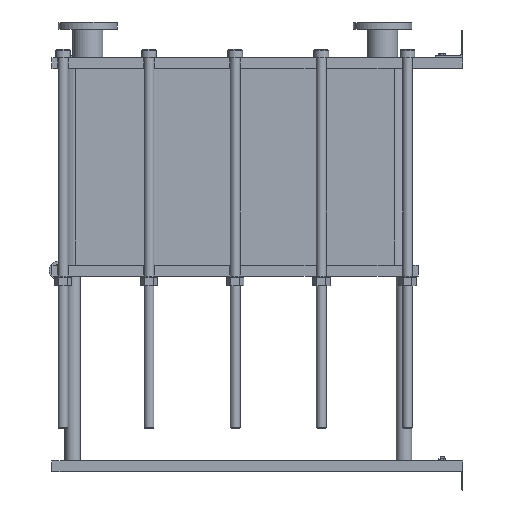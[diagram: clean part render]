
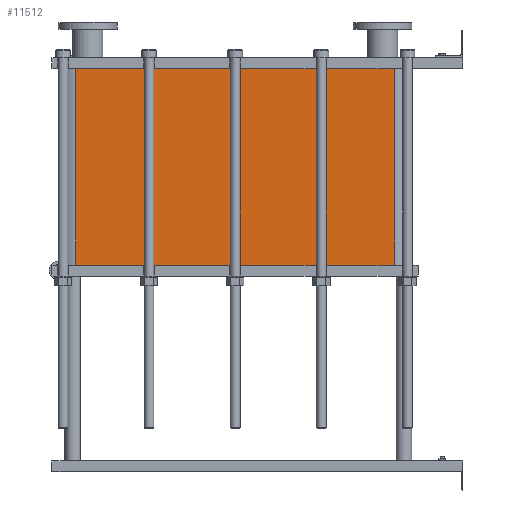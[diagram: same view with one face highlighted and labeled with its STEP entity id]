
A CAD part, left-side view. The second image highlights one B-rep face of the part: STEP entity #11512.
In plain terms, the highlighted planar face has unit normal (-1, 0, 0).
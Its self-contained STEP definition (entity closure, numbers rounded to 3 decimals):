
#1129=LINE('',#23232,#2102);
#1130=LINE('',#23236,#2103);
#1131=LINE('',#23238,#2104);
#1132=LINE('',#23239,#2105);
#2102=VECTOR('',#15887,10.);
#2103=VECTOR('',#15892,10.);
#2104=VECTOR('',#15893,10.);
#2105=VECTOR('',#15894,10.);
#3267=FACE_OUTER_BOUND('',#4093,.T.);
#4093=EDGE_LOOP('',(#10103,#10104,#10105,#10106));
#5642=VERTEX_POINT('',#23229);
#5643=VERTEX_POINT('',#23231);
#5644=VERTEX_POINT('',#23235);
#5645=VERTEX_POINT('',#23237);
#7159=EDGE_CURVE('',#5643,#5642,#1129,.T.);
#7161=EDGE_CURVE('',#5642,#5644,#1130,.T.);
#7162=EDGE_CURVE('',#5645,#5644,#1131,.T.);
#7163=EDGE_CURVE('',#5645,#5643,#1132,.T.);
#10103=ORIENTED_EDGE('',*,*,#7161,.T.);
#10104=ORIENTED_EDGE('',*,*,#7162,.F.);
#10105=ORIENTED_EDGE('',*,*,#7163,.T.);
#10106=ORIENTED_EDGE('',*,*,#7159,.T.);
#10857=PLANE('',#12751);
#11512=ADVANCED_FACE('',(#3267),#10857,.T.);
#12751=AXIS2_PLACEMENT_3D('',#23234,#15890,#15891);
#15887=DIRECTION('',(0.,0.,-1.));
#15890=DIRECTION('center_axis',(-1.,0.,0.));
#15891=DIRECTION('ref_axis',(0.,1.,0.));
#15892=DIRECTION('',(0.,-1.,0.));
#15893=DIRECTION('',(0.,0.,-1.));
#15894=DIRECTION('',(0.,1.,0.));
#23229=CARTESIAN_POINT('',(-200.,1414.,-717.6));
#23231=CARTESIAN_POINT('',(-200.,1414.,0.));
#23232=CARTESIAN_POINT('',(-200.,1414.,0.));
#23234=CARTESIAN_POINT('Origin',(-200.,248.,0.));
#23235=CARTESIAN_POINT('',(-200.,248.,-717.6));
#23236=CARTESIAN_POINT('',(-200.,539.5,-717.6));
#23237=CARTESIAN_POINT('',(-200.,248.,0.));
#23238=CARTESIAN_POINT('',(-200.,248.,0.));
#23239=CARTESIAN_POINT('',(-200.,248.,0.));
